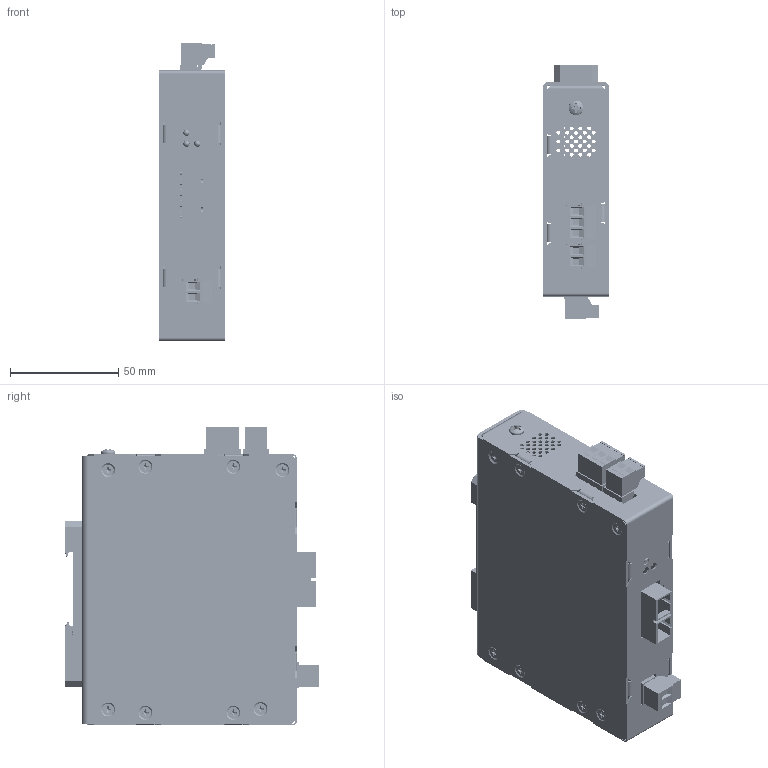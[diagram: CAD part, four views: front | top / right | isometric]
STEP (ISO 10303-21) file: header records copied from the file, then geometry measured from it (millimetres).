
FILE_DESCRIPTION(/* description */ ('STEP AP242','CAx-IF Rec.Pracs.---Representation and Presentation of Product Manufacturing Information (PMI)---4.0---2014-10-13','CAx-IF Rec.Pracs.---3D Tessellated Geometry---0.4---2014-09-14','2;1'),/* implementation_level */ '2;1');
FILE_NAME(/* name */ '618db7d86f595d15abeb3d6a',/* time_stamp */ '2021-11-12T00:39:56+00:00',/* author */ (''),/* organization */ (''),/* preprocessor_version */ 'ST-DEVELOPER v18.1',/* originating_system */ ' ',/* authorisation */ ' ');
FILE_SCHEMA (('AP242_MANAGED_MODEL_BASED_3D_ENGINEERING_MIM_LF { 1 0 10303 442 1 1 4 }'));
Products named in the file (27): AD-XXXXX-00-1-Receiver-DIN - Rev B; 96640A334_Black-Oxide 18-8 Stainless Steel Phillips Flat Head Screws; SMTSO-440-8ET-PennEngineering-3D-09-30-2021; 96640A115_Black-Oxide 18-8 Stainless Steel Phillips Flat Head Screws; 91772A144_Passivated 18-8 Stainless Steel Pan Head Phillips Screw; DINM12-RC-Assy <1>; spring^DINM12-RC-Assy; Spring clip; DINM12-RC; H-133 - 4-20mA DIN Front Housing <1>; PRODUCT_NAME_1; Part 1; PCB-AD-XXXXX-00-1-Receiver <1>; C-796638-2; C-796634-3; C-796634-2; C-796638-3; H-105 Rear Housing <1>; 95185A130_Zinc-Plated Steel Press-Fit Nut for Sheet Metal
Assembly tree (60 placements, depth 3):
  AD-XXXXX-00-1-Receiver-DIN - Rev B
    96640A334_Black-Oxide 18-8 Stainless Steel Phillips Flat Head Screws  x14
    SMTSO-440-8ET-PennEngineering-3D-09-30-2021  x4
    96640A115_Black-Oxide 18-8 Stainless Steel Phillips Flat Head Screws  x3
    91772A144_Passivated 18-8 Stainless Steel Pan Head Phillips Screw
    DINM12-RC-Assy <1>
      spring^DINM12-RC-Assy
      Spring clip
      DINM12-RC
      spring^DINM12-RC-Assy
    H-133 - 4-20mA DIN Front Housing <1>
      PRODUCT_NAME_1  x10
      PRODUCT_NAME_1
      Part 1
    PCB-AD-XXXXX-00-1-Receiver <1>
      C-796638-2  x2
      Part 1  x4
      C-796634-3
      Part 1
      C-796634-2  x2
      Part 1
      Part 1
      Part 1
      C-796638-3
    H-105 Rear Housing <1>
      Part 1
      95185A130_Zinc-Plated Steel Press-Fit Nut for Sheet Metal  x3
Bounding box: 30.48 x 117.7 x 137.99 mm (x, y, z)
Volume: 88215.5 mm3; surface area: 123809.3 mm2
Topology: 55 solids, 56 shells, 3692 faces, 10791 edges, 7416 vertices
Faces by surface type: plane 2391, cylinder 1004, cone 206, bspline 50, torus 33, sphere 8
Full cylindrical faces by diameter (mm): 0.45 x9, 0.5 x1, 0.9 x4, 1.3 x4, 1.905 x143, 2.156 x14, 2.647 x1, 2.845 x112, 2.9 x3, 3.251 x14, 3.505 x24, 3.556 x3, 4 x10, 4.089 x4, 4.191 x10, 4.216 x14, 4.724 x1, 4.75 x1, 4.763 x3, 4.826 x3, 4.889 x10, 5.41 x8, 5.563 x13, 5.588 x10, 6.401 x1, 6.858 x1, 7.112 x3, 7.5 x1, 7.62 x8, 9 x2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
Entity records: 80215 total; most frequent: CARTESIAN_POINT 20564, ORIENTED_EDGE 11106, DIRECTION 10978, EDGE_CURVE 5555, VERTEX_POINT 3856, AXIS2_PLACEMENT_3D 3668, LINE 3642, VECTOR 3642
